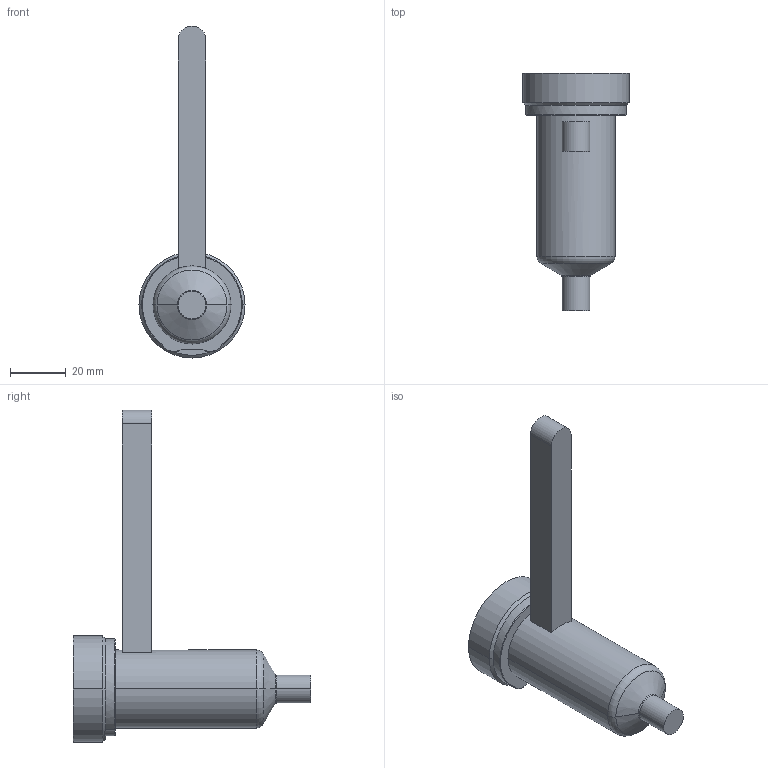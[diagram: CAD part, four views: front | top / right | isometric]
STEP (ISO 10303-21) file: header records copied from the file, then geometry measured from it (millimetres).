
FILE_DESCRIPTION((''),'2;1');
FILE_NAME('EO06_PG-FBE_WR_060_COT','2024-02-19T11:51:30',('sundharh'),(''),'CREO PARAMETRIC BY PTC INC, 2023154','CREO PARAMETRIC BY PTC INC, 2023154','');
FILE_SCHEMA(('CONFIG_CONTROL_DESIGN'));
Length unit declared in the file: millimetre
Products named in the file (1): EO06_PG-FBE_WR_060_COT
Bounding box: 38 x 85 x 119 mm (x, y, z)
Volume: 60180.4 mm3; surface area: 12487.1 mm2
Topology: 1 solids, 1 shells, 31 faces, 67 edges, 40 vertices
Faces by surface type: cylinder 11, plane 9, torus 7, cone 4
Entity records: 963 total; most frequent: CARTESIAN_POINT 230, DIRECTION 159, ORIENTED_EDGE 134, AXIS2_PLACEMENT_3D 67, EDGE_CURVE 67, VERTEX_POINT 40, CIRCLE 36, EDGE_LOOP 33
